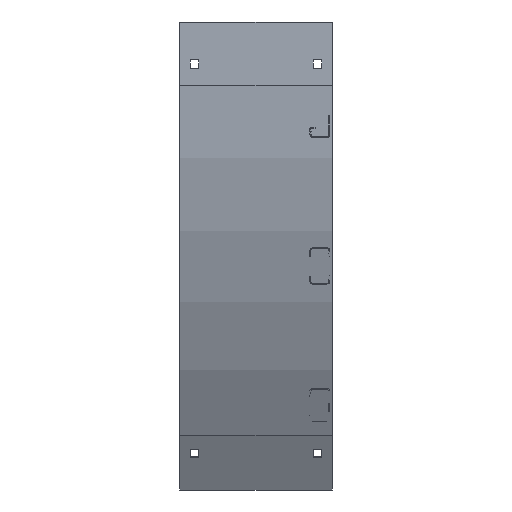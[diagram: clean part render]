
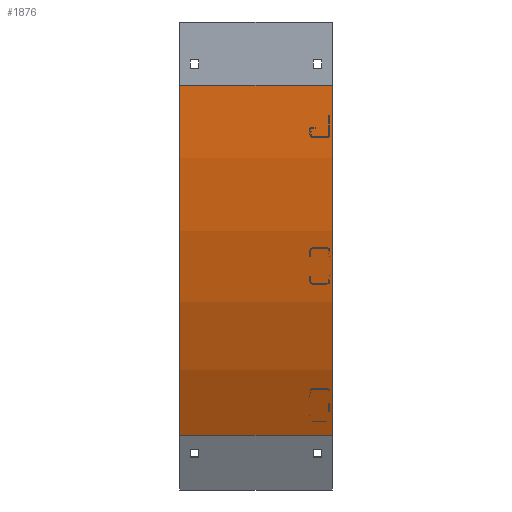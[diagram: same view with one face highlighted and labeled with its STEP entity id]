
A CAD part, left-side view. The second image highlights one B-rep face of the part: STEP entity #1876.
In plain terms, the highlighted cylindrical face has radius 843.788 mm (diameter 1687.58 mm), a partial arc.
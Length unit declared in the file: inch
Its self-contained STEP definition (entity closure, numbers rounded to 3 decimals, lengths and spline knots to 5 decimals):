
#1291=CARTESIAN_POINT('',(0.,-33.11,3.));
#1292=DIRECTION('',(1.,0.,0.));
#1293=DIRECTION('',(0.,1.,0.));
#1294=AXIS2_PLACEMENT_3D('',#1291,#1292,#1293);
#1300=DIRECTION('',(-1.,0.,0.));
#1301=VECTOR('',#1300,7.24);
#1302=CARTESIAN_POINT('',(7.24,0.11,3.));
#1303=LINE('',#1302,#1301);
#1304=CARTESIAN_POINT('',(7.24,-33.11,3.));
#1305=DIRECTION('',(1.,0.,0.));
#1306=DIRECTION('',(0.,1.,0.));
#1307=AXIS2_PLACEMENT_3D('',#1304,#1305,#1306);
#1309=DIRECTION('',(-1.,0.,0.));
#1310=VECTOR('',#1309,7.24);
#1311=CARTESIAN_POINT('',(7.24,-4.34064,19.61));
#1312=LINE('',#1311,#1310);
#1544=CARTESIAN_POINT('',(7.24,0.11,3.));
#1545=CARTESIAN_POINT('',(0.,0.11,3.));
#1546=VERTEX_POINT('',#1544);
#1547=VERTEX_POINT('',#1545);
#1560=CARTESIAN_POINT('',(7.24,-4.34064,19.61));
#1561=CARTESIAN_POINT('',(0.,-4.34064,19.61));
#1562=VERTEX_POINT('',#1560);
#1563=VERTEX_POINT('',#1561);
#1864=CARTESIAN_POINT('',(-1.,-33.11,3.));
#1865=DIRECTION('',(1.,0.,0.));
#1866=DIRECTION('',(0.,-1.,0.));
#1867=AXIS2_PLACEMENT_3D('',#1864,#1865,#1866);
#1868=CYLINDRICAL_SURFACE('',#1867,33.22);
#1869=ORIENTED_EDGE('',*,*,#1688,.F.);
#1870=ORIENTED_EDGE('',*,*,#1731,.T.);
#1872=ORIENTED_EDGE('',*,*,#1871,.T.);
#1873=ORIENTED_EDGE('',*,*,#1850,.F.);
#1874=EDGE_LOOP('',(#1869,#1870,#1872,#1873));
#1875=FACE_OUTER_BOUND('',#1874,.F.);
#1876=ADVANCED_FACE('',(#1875),#1868,.T.);
#1295=CIRCLE('',#1294,33.22);
#1308=CIRCLE('',#1307,33.22);
#1688=EDGE_CURVE('',#1546,#1547,#1303,.T.);
#1731=EDGE_CURVE('',#1546,#1562,#1308,.T.);
#1850=EDGE_CURVE('',#1547,#1563,#1295,.T.);
#1871=EDGE_CURVE('',#1562,#1563,#1312,.T.);
